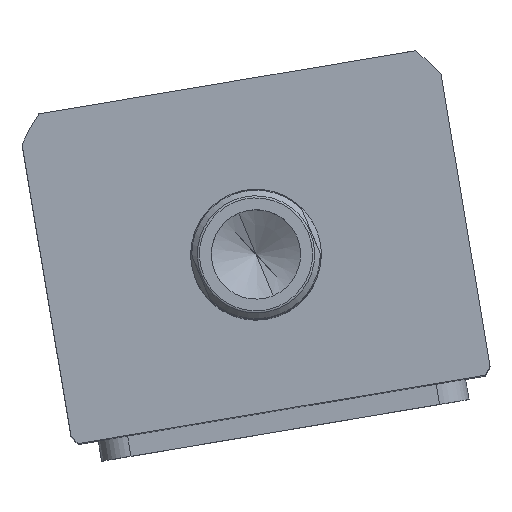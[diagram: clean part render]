
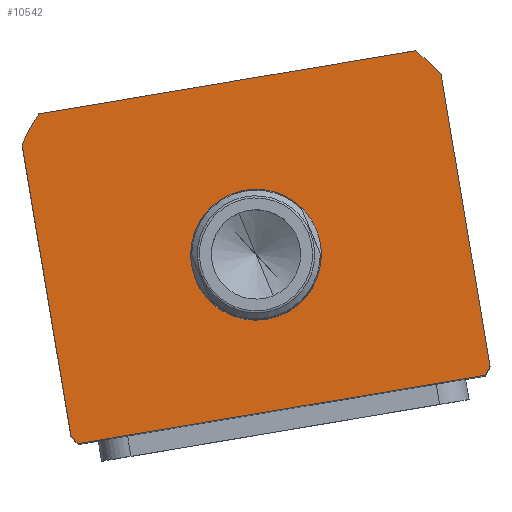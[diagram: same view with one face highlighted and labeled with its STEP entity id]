
A CAD part, top view. The second image highlights one B-rep face of the part: STEP entity #10542.
In plain terms, the highlighted planar face has unit normal (0, 0, 1) as drawn and (0, 0, -1) by its records, which use the part's own axes.
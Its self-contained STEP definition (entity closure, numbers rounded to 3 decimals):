
#48 = FACE_OUTER_BOUND ( 'NONE', #7284, .T. ) ;
#54 = VERTEX_POINT ( 'NONE', #611 ) ;
#147 = ORIENTED_EDGE ( 'NONE', *, *, #6384, .T. ) ;
#173 = EDGE_CURVE ( 'NONE', #4181, #17552, #17391, .T. ) ;
#176 = VECTOR ( 'NONE', #16831, 1000. ) ;
#266 = CIRCLE ( 'NONE', #14883, 69.5 ) ;
#504 = FACE_BOUND ( 'NONE', #8988, .T. ) ;
#611 = CARTESIAN_POINT ( 'NONE',  ( 17.5, 2.5, 0. ) ) ;
#778 = DIRECTION ( 'NONE',  ( 1., 0., 0. ) ) ;
#811 = DIRECTION ( 'NONE',  ( 0., 0., 1. ) ) ;
#1079 = VERTEX_POINT ( 'NONE', #10787 ) ;
#1095 = ORIENTED_EDGE ( 'NONE', *, *, #11561, .F. ) ;
#1231 = LINE ( 'NONE', #9303, #15426 ) ;
#1290 = VERTEX_POINT ( 'NONE', #10011 ) ;
#1589 = CIRCLE ( 'NONE', #6590, 69.5 ) ;
#1648 = VECTOR ( 'NONE', #13677, 1000. ) ;
#2461 = VERTEX_POINT ( 'NONE', #6203 ) ;
#2536 = CARTESIAN_POINT ( 'NONE',  ( 0., 2.5, 0. ) ) ;
#2600 = DIRECTION ( 'NONE',  ( 0., 0., 1. ) ) ;
#2662 = DIRECTION ( 'NONE',  ( 1., 0., 0. ) ) ;
#3152 = ORIENTED_EDGE ( 'NONE', *, *, #7036, .T. ) ;
#3975 = EDGE_CURVE ( 'NONE', #14114, #5214, #1589, .T. ) ;
#3996 = CARTESIAN_POINT ( 'NONE',  ( 51.198, -44.5, 0. ) ) ;
#4005 = CARTESIAN_POINT ( 'NONE',  ( -55.374, 44.5, 0. ) ) ;
#4059 = EDGE_CURVE ( 'NONE', #1079, #4181, #11896, .T. ) ;
#4181 = VERTEX_POINT ( 'NONE', #4005 ) ;
#4823 = AXIS2_PLACEMENT_3D ( 'NONE', #18313, #9585, #778 ) ;
#5214 = VERTEX_POINT ( 'NONE', #10079 ) ;
#6020 = CARTESIAN_POINT ( 'NONE',  ( -51.198, -44.5, 0. ) ) ;
#6203 = CARTESIAN_POINT ( 'NONE',  ( -17.5, 2.5, 0. ) ) ;
#6271 = AXIS2_PLACEMENT_3D ( 'NONE', #9617, #811, #11083 ) ;
#6345 = DIRECTION ( 'NONE',  ( 0., -1., 0. ) ) ;
#6384 = EDGE_CURVE ( 'NONE', #2461, #54, #18497, .T. ) ;
#6560 = DIRECTION ( 'NONE',  ( 0., 0., 1. ) ) ;
#6590 = AXIS2_PLACEMENT_3D ( 'NONE', #15306, #6560, #16760 ) ;
#6765 = ORIENTED_EDGE ( 'NONE', *, *, #4059, .F. ) ;
#7036 = EDGE_CURVE ( 'NONE', #54, #2461, #14833, .T. ) ;
#7284 = EDGE_LOOP ( 'NONE', ( #1095, #13234, #13686, #14611, #7758, #10424, #13368, #6765 ) ) ;
#7459 = EDGE_CURVE ( 'NONE', #5214, #1290, #15422, .T. ) ;
#7502 = PLANE ( 'NONE',  #12292 ) ;
#7758 = ORIENTED_EDGE ( 'NONE', *, *, #8819, .F. ) ;
#8217 = DIRECTION ( 'NONE',  ( 0., 0., 1. ) ) ;
#8410 = DIRECTION ( 'NONE',  ( 0., 0., 1. ) ) ;
#8819 = EDGE_CURVE ( 'NONE', #13180, #10566, #15196, .T. ) ;
#8988 = EDGE_LOOP ( 'NONE', ( #3152, #147 ) ) ;
#9147 = LINE ( 'NONE', #12212, #1648 ) ;
#9303 = CARTESIAN_POINT ( 'NONE',  ( -57., 44.5, 0. ) ) ;
#9418 = EDGE_CURVE ( 'NONE', #17552, #13180, #1231, .T. ) ;
#9585 = DIRECTION ( 'NONE',  ( 0., 0., 1. ) ) ;
#9617 = CARTESIAN_POINT ( 'NONE',  ( 0., 2.5, 0. ) ) ;
#9778 = CARTESIAN_POINT ( 'NONE',  ( -57., -37.265, 0. ) ) ;
#9858 = AXIS2_PLACEMENT_3D ( 'NONE', #16939, #8217, #18411 ) ;
#10011 = CARTESIAN_POINT ( 'NONE',  ( 57., 42.265, 0. ) ) ;
#10079 = CARTESIAN_POINT ( 'NONE',  ( 57., -37.265, 0. ) ) ;
#10424 = ORIENTED_EDGE ( 'NONE', *, *, #9418, .F. ) ;
#10542 = ADVANCED_FACE ( 'NONE', ( #504, #48 ), #7502, .F. ) ;
#10566 = VERTEX_POINT ( 'NONE', #6020 ) ;
#10787 = CARTESIAN_POINT ( 'NONE',  ( 55.374, 44.5, 0. ) ) ;
#11083 = DIRECTION ( 'NONE',  ( 1., 0., 0. ) ) ;
#11547 = VECTOR ( 'NONE', #13044, 1000. ) ;
#11561 = EDGE_CURVE ( 'NONE', #1290, #1079, #266, .T. ) ;
#11896 = LINE ( 'NONE', #13901, #176 ) ;
#12212 = CARTESIAN_POINT ( 'NONE',  ( -57., -44.5, 0. ) ) ;
#12292 = AXIS2_PLACEMENT_3D ( 'NONE', #13306, #16113, #17701 ) ;
#13044 = DIRECTION ( 'NONE',  ( 0., 1., 0. ) ) ;
#13180 = VERTEX_POINT ( 'NONE', #9778 ) ;
#13234 = ORIENTED_EDGE ( 'NONE', *, *, #7459, .F. ) ;
#13306 = CARTESIAN_POINT ( 'NONE',  ( 0., 0., 0. ) ) ;
#13368 = ORIENTED_EDGE ( 'NONE', *, *, #173, .F. ) ;
#13568 = CARTESIAN_POINT ( 'NONE',  ( -57., 42.265, 0. ) ) ;
#13677 = DIRECTION ( 'NONE',  ( 1., 0., 0. ) ) ;
#13686 = ORIENTED_EDGE ( 'NONE', *, *, #3975, .F. ) ;
#13901 = CARTESIAN_POINT ( 'NONE',  ( -57., 44.5, 0. ) ) ;
#14114 = VERTEX_POINT ( 'NONE', #3996 ) ;
#14611 = ORIENTED_EDGE ( 'NONE', *, *, #18404, .F. ) ;
#14833 = CIRCLE ( 'NONE', #9858, 17.5 ) ;
#14883 = AXIS2_PLACEMENT_3D ( 'NONE', #17127, #8410, #18604 ) ;
#15196 = CIRCLE ( 'NONE', #4823, 69.5 ) ;
#15306 = CARTESIAN_POINT ( 'NONE',  ( 0., 2.5, 0. ) ) ;
#15422 = LINE ( 'NONE', #15976, #11547 ) ;
#15426 = VECTOR ( 'NONE', #6345, 1000. ) ;
#15976 = CARTESIAN_POINT ( 'NONE',  ( 57., 44.5, 0. ) ) ;
#16113 = DIRECTION ( 'NONE',  ( 0., 0., 1. ) ) ;
#16760 = DIRECTION ( 'NONE',  ( 1., 0., 0. ) ) ;
#16831 = DIRECTION ( 'NONE',  ( -1., 0., 0. ) ) ;
#16939 = CARTESIAN_POINT ( 'NONE',  ( 0., 2.5, 0. ) ) ;
#17127 = CARTESIAN_POINT ( 'NONE',  ( 0., 2.5, 0. ) ) ;
#17391 = CIRCLE ( 'NONE', #18681, 69.5 ) ;
#17552 = VERTEX_POINT ( 'NONE', #13568 ) ;
#17701 = DIRECTION ( 'NONE',  ( 1., 0., 0. ) ) ;
#18313 = CARTESIAN_POINT ( 'NONE',  ( 0., 2.5, 0. ) ) ;
#18404 = EDGE_CURVE ( 'NONE', #10566, #14114, #9147, .T. ) ;
#18411 = DIRECTION ( 'NONE',  ( 1., 0., 0. ) ) ;
#18497 = CIRCLE ( 'NONE', #6271, 17.5 ) ;
#18604 = DIRECTION ( 'NONE',  ( 1., 0., 0. ) ) ;
#18681 = AXIS2_PLACEMENT_3D ( 'NONE', #2536, #2600, #2662 ) ;
